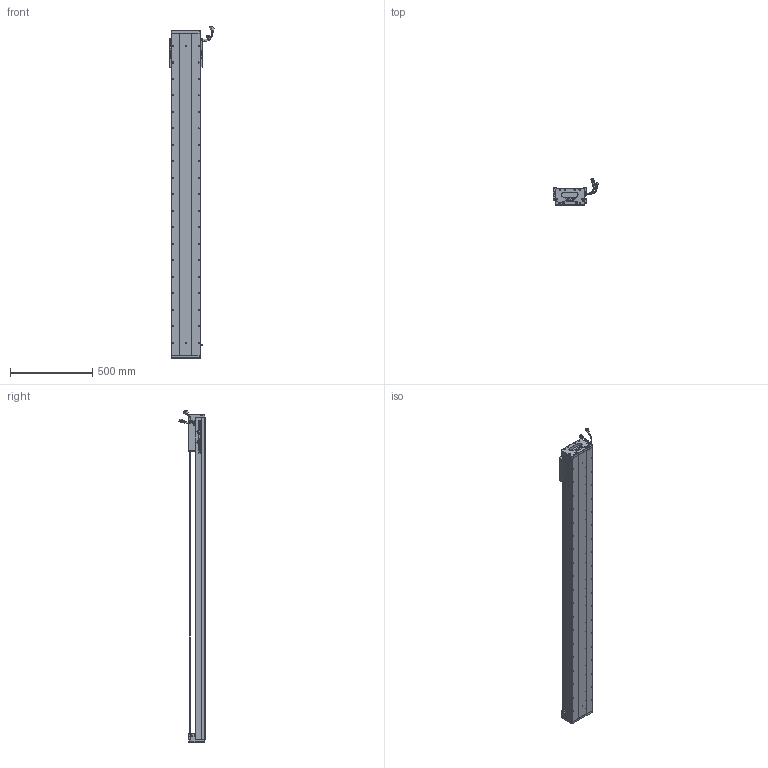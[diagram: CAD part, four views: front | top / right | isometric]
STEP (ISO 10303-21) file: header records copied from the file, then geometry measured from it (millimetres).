
FILE_DESCRIPTION (( 'STEP AP203' ), '1' );
FILE_NAME ('Z2-RY170D-1-L500-B-K.SLDASM_1700.step', '2021-05-17T09:08:50', ( '盈信电脑' ), ( '东莞市道滘镇水果街19号' ), 'SwSTEP 2.0', 'SolidWorks 2016', '' );
FILE_SCHEMA (( 'CONFIG_CONTROL_DESIGN' ));
Length unit declared in the file: millimetre
Products named in the file (36): Z-RY170詩湍狟揤裔; 170-Z-臏賑輸盄裔(21遴); SEAL-Part-1; Z2-RY170-L500耀郪菁釱_1700; 榋妏寠巭燃_暯_M2_2; 080黍杅芛假蚾釱21遴; RY170直线电机感应器672光电感应片; SCREW-M1.7; HARNESS; 覜茼ん672; 140雄赽晤鎢ん堤盄; HARNESS-Part-1; SCALE-Part-1; SCREW-M1.6-3; 140蚥薯蝶輸; PSLH080_PSLF2; SCREW-M1.6-2; SCALE; Z-RY170詩湍奻揤裔; HARNESS-Part-2; Z2-RY170D-1-L500-B-K.SLDASM_1700; SHIELDPLATE; COVER-Part-1; SCREW-M1.6-1; LABEL; COVER; Z2-RY170-L500詩湍145mm遵_1700; SCREW-M1.6; SCREW-M1.7-1; SEAL; HOLDER0; Z-170詩湍傷裔啣; LABEL-Part-1; PBU_SHEET; Z2-RY170臏賑輸(21遴); SCALE-Part-2
Assembly tree (41 placements, depth 4):
  Z2-RY170D-1-L500-B-K.SLDASM_1700
    Z2-RY170-L500耀郪菁釱_1700
    RY170直线电机感应器672光电感应片
    Z2-RY170臏賑輸(21遴)
    覜茼ん672  x3
    PSLH080_PSLF2
      SCALE
        SCALE-Part-1
        SCALE-Part-2
      HARNESS
        HARNESS-Part-1
        HARNESS-Part-2
      LABEL
        LABEL-Part-1
      COVER
        COVER-Part-1
      SEAL
        SEAL-Part-1
      榋妏寠巭燃_暯_M2_2
      SHIELDPLATE
      SCREW-M1.7
      SCREW-M1.7-1
      PBU_SHEET
      SCREW-M1.6
      SCREW-M1.6-1
      SCREW-M1.6-2
      SCREW-M1.6-3
      HOLDER0
    080黍杅芛假蚾釱21遴
    Z2-RY170-L500詩湍145mm遵_1700
    Z-170詩湍傷裔啣  x2
    Z-RY170詩湍奻揤裔  x2
    Z-RY170詩湍狟揤裔  x2
    140蚥薯蝶輸  x2
    170-Z-臏賑輸盄裔(21遴)
    140雄赽晤鎢ん堤盄
Bounding box: 275.34 x 158.11 x 2013.72 mm (x, y, z)
Volume: 10165741.4 mm3; surface area: 2508274.2 mm2
Topology: 36 solids, 36 shells, 3628 faces, 9931 edges, 6215 vertices
Faces by surface type: cylinder 1762, plane 1248, cone 496, torus 69, bspline 53
Entity records: 111371 total; most frequent: CARTESIAN_POINT 30176, ORIENTED_EDGE 16474, DIRECTION 15661, EDGE_CURVE 8237, AXIS2_PLACEMENT_3D 5758, VERTEX_POINT 5333, LINE 4145, VECTOR 4145
